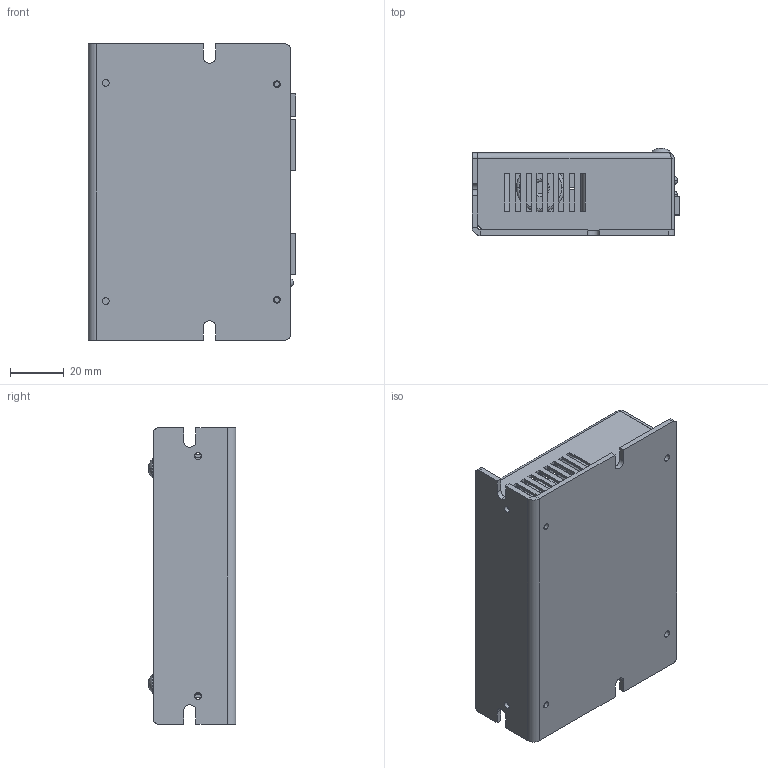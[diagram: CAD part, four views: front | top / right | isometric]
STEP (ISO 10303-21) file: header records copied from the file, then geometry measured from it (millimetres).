
FILE_DESCRIPTION (( 'STEP AP214' ), '1' );
FILE_NAME ('EXD5014M-FV.STEP', '2021-02-04T07:26:01', ( '' ), ( '' ), 'SwSTEP 2.0', 'SolidWorks 2017', '' );
FILE_SCHEMA (( 'AUTOMOTIVE_DESIGN' ));
Length unit declared in the file: millimetre
Products named in the file (19): EXD5014MFV-PC001; TERMINAL-2P; TERMINAL-4P; VR-B01; EXD5014M-FV; M3X22銅柱; User Library-xh-housing_4P_3 POSITION; EXD5014MFV-C1; PC-A02-16; NKJ3-6_NKJ3-6; LED-301; TRSS3-6_TRSS3-6; EXD5014MFV-C4; EXD5014MFV-PCB01; User Library-jst-xh-header-rangle_4P_3 position; TERMINAL-5P; EXD5014MFV-C3; EXD5014MFV-C2; PC-A03-4
Assembly tree (23 placements, depth 3):
  EXD5014M-FV
    EXD5014MFV-C1
    EXD5014MFV-PC001
      EXD5014MFV-PCB01
      LED-301
      TERMINAL-4P
      TERMINAL-2P
      TERMINAL-5P
      PC-A02-16  x3
      PC-A03-4
      VR-B01
      User Library-jst-xh-header-rangle_4P_3 position
    EXD5014MFV-C2
    EXD5014MFV-C3
    NKJ3-6_NKJ3-6  x2
    TRSS3-6_TRSS3-6  x2
    M3X22銅柱  x2
    User Library-xh-housing_4P_3 POSITION
    EXD5014MFV-C4
Bounding box: 77 x 32.4 x 110 mm (x, y, z)
Volume: 60780.5 mm3; surface area: 75390.3 mm2
Topology: 27 solids, 27 shells, 2211 faces, 5839 edges, 3834 vertices
Faces by surface type: plane 1436, bspline 552, cylinder 145, cone 48, torus 22, sphere 8
Entity records: 57119 total; most frequent: CARTESIAN_POINT 16569, ORIENTED_EDGE 7362, DIRECTION 6073, EDGE_CURVE 3681, VECTOR 2955, LINE 2955, VERTEX_POINT 2411, EDGE_LOOP 1586
